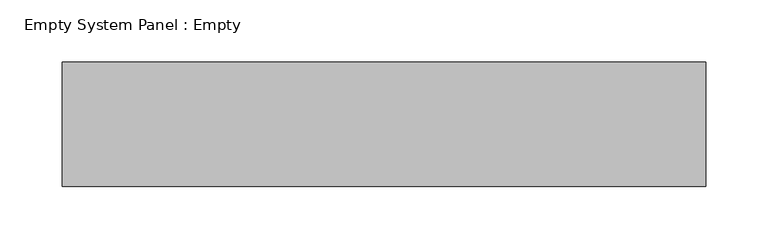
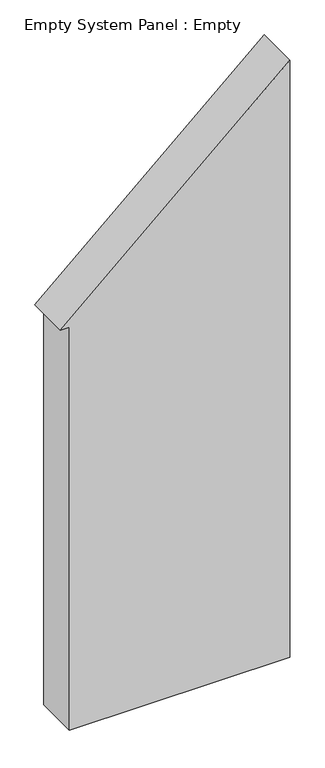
"""IFC4 building model written with IfcOpenShell, lengths in millimetres: plate geometry, Empty System Panel : Empty."""

from ifc_helpers import new_model, si_unit, frame, origin, place, context, project, spatial, polyline, outline, extrude, source, transform, mapped, element, save


def empty_system_panel_empty_a95322c6(model_context):
    return source(origin(), model_context, "Body", "SweptSolid", [
        extrude(outline(polyline([(0.0, -238.7446429), (0.0, 258.7446429), (1424.4881356, 258.7446429), (961.5856385, -258.7446429), (961.5856385, -238.7446429), (0.0, -238.7446429)])), frame((0.0, -50.0, 0.0), z_axis=(0.0, 1.0, 0.0), x_axis=(0.0, 0.0, 1.0)), (0.0, 0.0, 1.0), 100.0),
    ])


if __name__ == "__main__":
    model = new_model("IFC4")
    model_context = context("Model", 3, world=origin())
    ifc_project = project(units=[si_unit("LENGTHUNIT", "METRE", prefix="MILLI")], contexts=[model_context])
    site = spatial("IfcSite", under=ifc_project)
    building = spatial("IfcBuilding", under=site)
    placement = place(None, origin())
    empty_system_panel_empty_shape = empty_system_panel_empty_a95322c6(model_context)
    element("IfcPlate", 1, ObjectType="Empty System Panel : Empty", at=placement, inside=building, context=model_context, shape_type="MappedRepresentation", body=[
        mapped(empty_system_panel_empty_shape, transform((0.0, 0.0, 0.0), x_axis=(1.0, 0.0, 0.0), y_axis=(0.0, 1.0, 0.0), z_axis=(0.0, 0.0, 1.0))),
    ])
    save(model, "model.ifc")
